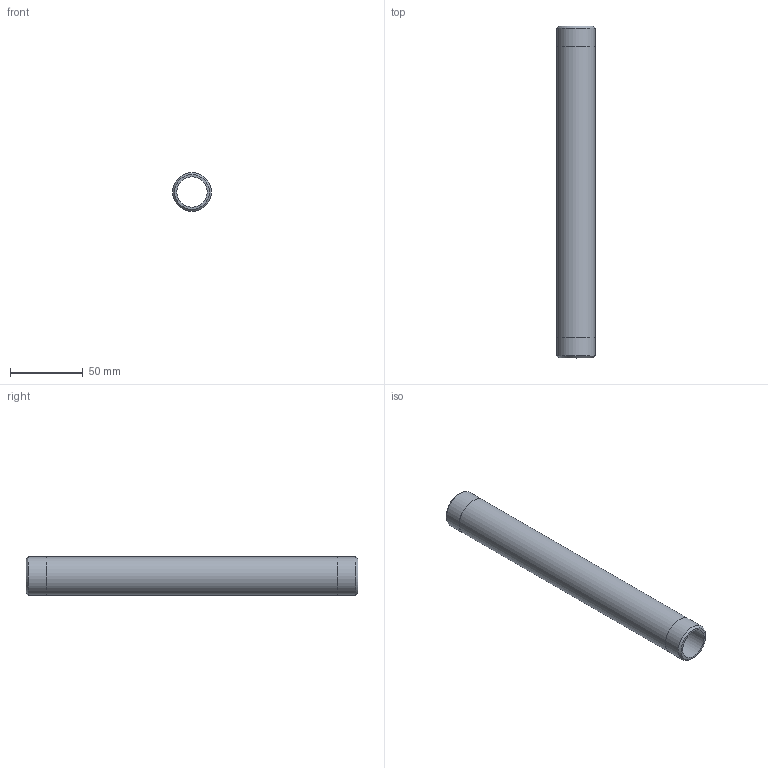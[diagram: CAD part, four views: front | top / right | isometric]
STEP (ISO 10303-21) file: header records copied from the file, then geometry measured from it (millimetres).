
FILE_DESCRIPTION(/* description */ (''),/* implementation_level */ '2;1');
FILE_NAME(/* name */ 'C:/Users/drich/Desktop/BPN34-9 v1.step',/* time_stamp */ '2020-01-03T15:18:43-06:00',/* author */ (''),/* organization */ (''),/* preprocessor_version */ 'ST-DEVELOPER v18',/* originating_system */ 'Autodesk Translation Framework v8.12.0.6',/* authorisation */ '');
FILE_SCHEMA (('AUTOMOTIVE_DESIGN { 1 0 10303 214 3 1 1 }'));
Length unit declared in the file: inch
Products named in the file (1): BPN34-9
Bounding box: 26.67 x 228.6 x 26.67 mm (x, y, z)
Volume: 48841.8 mm3; surface area: 34467.4 mm2
Topology: 1 solids, 1 shells, 10 faces, 24 edges, 18 vertices
Faces by surface type: cylinder 4, plane 4, cone 2
Full cylindrical faces by diameter (mm): 20.93 x1, 26.619 x2, 26.67 x1
Entity records: 360 total; most frequent: DIRECTION 64, CARTESIAN_POINT 53, ORIENTED_EDGE 48, AXIS2_PLACEMENT_3D 29, EDGE_CURVE 24, CIRCLE 18, VERTEX_POINT 18, EDGE_LOOP 14
